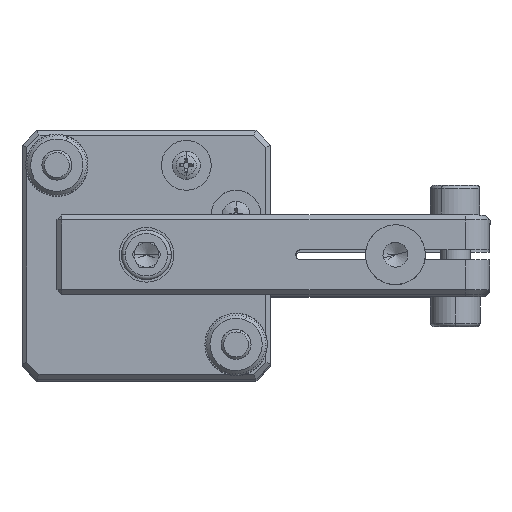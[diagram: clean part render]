
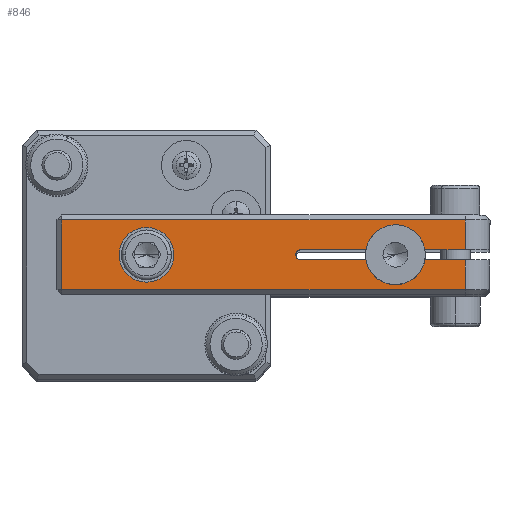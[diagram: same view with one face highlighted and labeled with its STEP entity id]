
A CAD part, top view. The second image highlights one B-rep face of the part: STEP entity #846.
In plain terms, the highlighted planar face has unit normal (0, 0, 1) as drawn and (0, 0, -1) by its records, which use the part's own axes.
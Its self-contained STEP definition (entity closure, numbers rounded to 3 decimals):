
#193 = VECTOR ( 'NONE', #17424, 1000. ) ;
#284 = DIRECTION ( 'NONE',  ( -1., 0., 0. ) ) ;
#403 = DIRECTION ( 'NONE',  ( 0., 1., 0. ) ) ;
#719 = DIRECTION ( 'NONE',  ( -1., 0., 0. ) ) ;
#772 = DIRECTION ( 'NONE',  ( 0., 0., 1. ) ) ;
#789 = DIRECTION ( 'NONE',  ( 0., 0., -1. ) ) ;
#846 = ADVANCED_FACE ( 'NONE', ( #20309, #5390 ), #4416, .F. ) ;
#1421 = AXIS2_PLACEMENT_3D ( 'NONE', #6929, #10419, #284 ) ;
#1618 = CARTESIAN_POINT ( 'NONE',  ( 5.5, 69., -8. ) ) ;
#1704 = CARTESIAN_POINT ( 'NONE',  ( -7., 86., -8. ) ) ;
#1828 = VERTEX_POINT ( 'NONE', #6444 ) ;
#2098 = DIRECTION ( 'NONE',  ( 0., -1., 0. ) ) ;
#2249 = EDGE_CURVE ( 'NONE', #8713, #6710, #9269, .T. ) ;
#2329 = DIRECTION ( 'NONE',  ( 1., 0., 0. ) ) ;
#2343 = VERTEX_POINT ( 'NONE', #5672 ) ;
#2599 = CIRCLE ( 'NONE', #13613, 5.5 ) ;
#2699 = EDGE_CURVE ( 'NONE', #6710, #8713, #2599, .T. ) ;
#2843 = CARTESIAN_POINT ( 'NONE',  ( -8., 86., -8. ) ) ;
#2941 = DIRECTION ( 'NONE',  ( 0., 0., 1. ) ) ;
#3149 = VERTEX_POINT ( 'NONE', #17960 ) ;
#3193 = CARTESIAN_POINT ( 'NONE',  ( 1., 38., -8. ) ) ;
#3310 = ORIENTED_EDGE ( 'NONE', *, *, #14757, .T. ) ;
#3548 = LINE ( 'NONE', #2843, #10810 ) ;
#3609 = ORIENTED_EDGE ( 'NONE', *, *, #19738, .F. ) ;
#4063 = VERTEX_POINT ( 'NONE', #18184 ) ;
#4269 = CIRCLE ( 'NONE', #18918, 1. ) ;
#4416 = PLANE ( 'NONE',  #7932 ) ;
#4547 = EDGE_CURVE ( 'NONE', #19538, #8760, #15231, .T. ) ;
#4706 = ORIENTED_EDGE ( 'NONE', *, *, #20956, .T. ) ;
#4820 = CARTESIAN_POINT ( 'NONE',  ( 6., 19., -8. ) ) ;
#4904 = VECTOR ( 'NONE', #17876, 1000. ) ;
#5114 = LINE ( 'NONE', #16170, #4904 ) ;
#5176 = CIRCLE ( 'NONE', #5520, 6. ) ;
#5326 = ORIENTED_EDGE ( 'NONE', *, *, #4547, .T. ) ;
#5383 = VERTEX_POINT ( 'NONE', #13114 ) ;
#5390 = FACE_OUTER_BOUND ( 'NONE', #21314, .T. ) ;
#5427 = LINE ( 'NONE', #7361, #5498 ) ;
#5498 = VECTOR ( 'NONE', #403, 1000. ) ;
#5520 = AXIS2_PLACEMENT_3D ( 'NONE', #10734, #772, #19245 ) ;
#5561 = ORIENTED_EDGE ( 'NONE', *, *, #9067, .F. ) ;
#5672 = CARTESIAN_POINT ( 'NONE',  ( 1., 5., -8. ) ) ;
#5724 = VERTEX_POINT ( 'NONE', #18012 ) ;
#5756 = ORIENTED_EDGE ( 'NONE', *, *, #18626, .T. ) ;
#6147 = EDGE_CURVE ( 'NONE', #5724, #5383, #4269, .T. ) ;
#6413 = CARTESIAN_POINT ( 'NONE',  ( -5.5, 69., -8. ) ) ;
#6444 = CARTESIAN_POINT ( 'NONE',  ( -1., 24.916, -8. ) ) ;
#6583 = EDGE_CURVE ( 'NONE', #12390, #2343, #5114, .T. ) ;
#6710 = VERTEX_POINT ( 'NONE', #1618 ) ;
#6929 = CARTESIAN_POINT ( 'NONE',  ( 0., 69., -8. ) ) ;
#7002 = DIRECTION ( 'NONE',  ( 0., 0., 1. ) ) ;
#7017 = LINE ( 'NONE', #17847, #7130 ) ;
#7066 = ORIENTED_EDGE ( 'NONE', *, *, #12386, .T. ) ;
#7130 = VECTOR ( 'NONE', #719, 1000. ) ;
#7330 = VERTEX_POINT ( 'NONE', #1704 ) ;
#7361 = CARTESIAN_POINT ( 'NONE',  ( -7., 87., -8. ) ) ;
#7368 = EDGE_CURVE ( 'NONE', #3149, #20709, #20771, .T. ) ;
#7549 = LINE ( 'NONE', #10800, #14945 ) ;
#7932 = AXIS2_PLACEMENT_3D ( 'NONE', #21201, #2941, #17936 ) ;
#8138 = EDGE_CURVE ( 'NONE', #4063, #12465, #7549, .T. ) ;
#8373 = CIRCLE ( 'NONE', #12502, 6. ) ;
#8713 = VERTEX_POINT ( 'NONE', #6413 ) ;
#8760 = VERTEX_POINT ( 'NONE', #11688 ) ;
#8806 = CARTESIAN_POINT ( 'NONE',  ( 0., 38., -8. ) ) ;
#9067 = EDGE_CURVE ( 'NONE', #5383, #8760, #9780, .T. ) ;
#9269 = CIRCLE ( 'NONE', #1421, 5.5 ) ;
#9279 = VECTOR ( 'NONE', #2098, 1000. ) ;
#9436 = DIRECTION ( 'NONE',  ( 1., 0., 0. ) ) ;
#9568 = CARTESIAN_POINT ( 'NONE',  ( 7., 5., -8. ) ) ;
#9664 = EDGE_LOOP ( 'NONE', ( #17942, #12240 ) ) ;
#9780 = LINE ( 'NONE', #3193, #9279 ) ;
#10419 = DIRECTION ( 'NONE',  ( 0., 0., -1. ) ) ;
#10463 = ORIENTED_EDGE ( 'NONE', *, *, #6147, .F. ) ;
#10547 = CARTESIAN_POINT ( 'NONE',  ( -7., 5., -8. ) ) ;
#10734 = CARTESIAN_POINT ( 'NONE',  ( 0., 19., -8. ) ) ;
#10748 = DIRECTION ( 'NONE',  ( -1., 0., 0. ) ) ;
#10800 = CARTESIAN_POINT ( 'NONE',  ( 7., 87., -8. ) ) ;
#10810 = VECTOR ( 'NONE', #9436, 1000. ) ;
#10836 = AXIS2_PLACEMENT_3D ( 'NONE', #16907, #7002, #2329 ) ;
#10991 = ORIENTED_EDGE ( 'NONE', *, *, #7368, .F. ) ;
#11187 = ORIENTED_EDGE ( 'NONE', *, *, #6583, .F. ) ;
#11688 = CARTESIAN_POINT ( 'NONE',  ( 1., 24.916, -8. ) ) ;
#11938 = CARTESIAN_POINT ( 'NONE',  ( 0., 19., -8. ) ) ;
#12240 = ORIENTED_EDGE ( 'NONE', *, *, #2699, .F. ) ;
#12386 = EDGE_CURVE ( 'NONE', #14307, #7330, #5427, .T. ) ;
#12390 = VERTEX_POINT ( 'NONE', #18632 ) ;
#12465 = VERTEX_POINT ( 'NONE', #9568 ) ;
#12502 = AXIS2_PLACEMENT_3D ( 'NONE', #11938, #13420, #15449 ) ;
#12660 = ORIENTED_EDGE ( 'NONE', *, *, #15581, .T. ) ;
#12801 = LINE ( 'NONE', #17611, #19524 ) ;
#13114 = CARTESIAN_POINT ( 'NONE',  ( 1., 38., -8. ) ) ;
#13420 = DIRECTION ( 'NONE',  ( 0., 0., 1. ) ) ;
#13613 = AXIS2_PLACEMENT_3D ( 'NONE', #21333, #789, #10748 ) ;
#13851 = VECTOR ( 'NONE', #16029, 1000. ) ;
#14307 = VERTEX_POINT ( 'NONE', #10547 ) ;
#14627 = LINE ( 'NONE', #17276, #193 ) ;
#14757 = EDGE_CURVE ( 'NONE', #12390, #19538, #5176, .T. ) ;
#14945 = VECTOR ( 'NONE', #17105, 1000. ) ;
#15231 = CIRCLE ( 'NONE', #10836, 6. ) ;
#15449 = DIRECTION ( 'NONE',  ( 1., 0., 0. ) ) ;
#15581 = EDGE_CURVE ( 'NONE', #12465, #2343, #7017, .T. ) ;
#16029 = DIRECTION ( 'NONE',  ( 0., 1., 0. ) ) ;
#16170 = CARTESIAN_POINT ( 'NONE',  ( 1., 38., -8. ) ) ;
#16907 = CARTESIAN_POINT ( 'NONE',  ( 0., 19., -8. ) ) ;
#17098 = DIRECTION ( 'NONE',  ( 0., 0., -1. ) ) ;
#17105 = DIRECTION ( 'NONE',  ( 0., -1., 0. ) ) ;
#17276 = CARTESIAN_POINT ( 'NONE',  ( -1., 38., -8. ) ) ;
#17319 = DIRECTION ( 'NONE',  ( -1., 0., 0. ) ) ;
#17424 = DIRECTION ( 'NONE',  ( 0., 1., 0. ) ) ;
#17611 = CARTESIAN_POINT ( 'NONE',  ( -8., 5., -8. ) ) ;
#17678 = EDGE_CURVE ( 'NONE', #7330, #4063, #3548, .T. ) ;
#17847 = CARTESIAN_POINT ( 'NONE',  ( 1., 5., -8. ) ) ;
#17876 = DIRECTION ( 'NONE',  ( 0., -1., 0. ) ) ;
#17936 = DIRECTION ( 'NONE',  ( 1., 0., 0. ) ) ;
#17942 = ORIENTED_EDGE ( 'NONE', *, *, #2249, .F. ) ;
#17960 = CARTESIAN_POINT ( 'NONE',  ( -1., 5., -8. ) ) ;
#18012 = CARTESIAN_POINT ( 'NONE',  ( -1., 38., -8. ) ) ;
#18024 = CARTESIAN_POINT ( 'NONE',  ( -1., 38., -8. ) ) ;
#18184 = CARTESIAN_POINT ( 'NONE',  ( 7., 86., -8. ) ) ;
#18626 = EDGE_CURVE ( 'NONE', #3149, #14307, #12801, .T. ) ;
#18632 = CARTESIAN_POINT ( 'NONE',  ( 1., 13.084, -8. ) ) ;
#18799 = ORIENTED_EDGE ( 'NONE', *, *, #17678, .T. ) ;
#18918 = AXIS2_PLACEMENT_3D ( 'NONE', #8806, #17098, #20933 ) ;
#19245 = DIRECTION ( 'NONE',  ( 1., 0., 0. ) ) ;
#19524 = VECTOR ( 'NONE', #17319, 1000. ) ;
#19538 = VERTEX_POINT ( 'NONE', #4820 ) ;
#19738 = EDGE_CURVE ( 'NONE', #1828, #5724, #14627, .T. ) ;
#19928 = ORIENTED_EDGE ( 'NONE', *, *, #8138, .T. ) ;
#20309 = FACE_BOUND ( 'NONE', #9664, .T. ) ;
#20709 = VERTEX_POINT ( 'NONE', #20819 ) ;
#20771 = LINE ( 'NONE', #18024, #13851 ) ;
#20819 = CARTESIAN_POINT ( 'NONE',  ( -1., 13.084, -8. ) ) ;
#20933 = DIRECTION ( 'NONE',  ( -1., 0., 0. ) ) ;
#20956 = EDGE_CURVE ( 'NONE', #1828, #20709, #8373, .T. ) ;
#21201 = CARTESIAN_POINT ( 'NONE',  ( -8., 87., -8. ) ) ;
#21314 = EDGE_LOOP ( 'NONE', ( #18799, #19928, #12660, #11187, #3310, #5326, #5561, #10463, #3609, #4706, #10991, #5756, #7066 ) ) ;
#21333 = CARTESIAN_POINT ( 'NONE',  ( 0., 69., -8. ) ) ;
